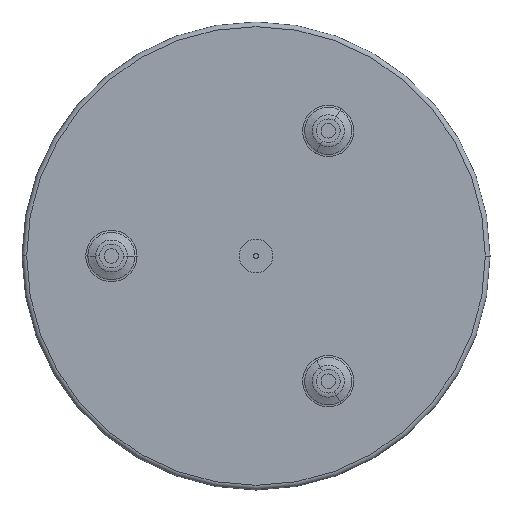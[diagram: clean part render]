
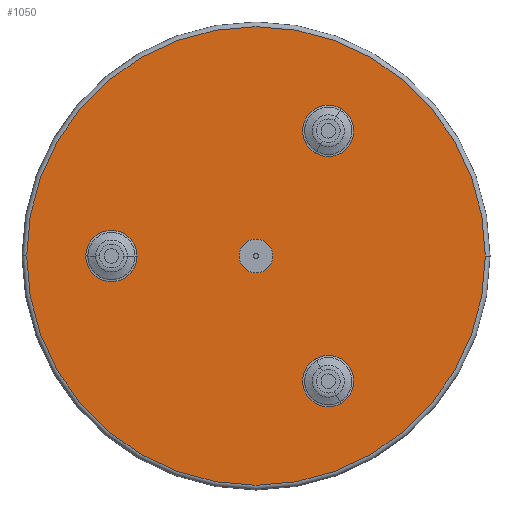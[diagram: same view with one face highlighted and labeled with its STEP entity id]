
A CAD part, front view. The second image highlights one B-rep face of the part: STEP entity #1050.
In plain terms, the highlighted planar face has unit normal (0, -1, 0).
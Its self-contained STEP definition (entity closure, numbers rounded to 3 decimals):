
#24=CARTESIAN_POINT('',(0.,0.,0.));
#25=DIRECTION('',(0.,-1.,0.));
#26=DIRECTION('',(-1.,0.,0.));
#27=AXIS2_PLACEMENT_3D('',#24,#25,#26);
#33=CARTESIAN_POINT('',(0.,0.,0.));
#34=DIRECTION('',(0.,-1.,0.));
#35=DIRECTION('',(1.,0.,0.));
#36=AXIS2_PLACEMENT_3D('',#33,#34,#35);
#41=CARTESIAN_POINT('',(0.,0.,0.));
#42=DIRECTION('',(0.,-1.,0.));
#43=DIRECTION('',(0.,0.,-1.));
#44=AXIS2_PLACEMENT_3D('',#41,#42,#43);
#49=CARTESIAN_POINT('',(0.,0.,0.));
#50=DIRECTION('',(0.,-1.,0.));
#51=DIRECTION('',(0.,0.,1.));
#52=AXIS2_PLACEMENT_3D('',#49,#50,#51);
#57=CARTESIAN_POINT('',(-61.776,0.,0.));
#58=DIRECTION('',(0.,-1.,0.));
#59=DIRECTION('',(1.,0.,0.));
#60=AXIS2_PLACEMENT_3D('',#57,#58,#59);
#65=CARTESIAN_POINT('',(-61.776,0.,0.));
#66=DIRECTION('',(0.,-1.,0.));
#67=DIRECTION('',(-1.,0.,0.));
#68=AXIS2_PLACEMENT_3D('',#65,#66,#67);
#73=CARTESIAN_POINT('',(30.888,0.,53.5));
#74=DIRECTION('',(0.,-1.,0.));
#75=DIRECTION('',(-0.5,0.,-0.866));
#76=AXIS2_PLACEMENT_3D('',#73,#74,#75);
#81=CARTESIAN_POINT('',(30.888,0.,53.5));
#82=DIRECTION('',(0.,-1.,0.));
#83=DIRECTION('',(0.5,0.,0.866));
#84=AXIS2_PLACEMENT_3D('',#81,#82,#83);
#89=CARTESIAN_POINT('',(30.888,0.,-53.5));
#90=DIRECTION('',(0.,-1.,0.));
#91=DIRECTION('',(-0.5,0.,0.866));
#92=AXIS2_PLACEMENT_3D('',#89,#90,#91);
#97=CARTESIAN_POINT('',(30.888,0.,-53.5));
#98=DIRECTION('',(0.,-1.,0.));
#99=DIRECTION('',(0.5,0.,-0.866));
#100=AXIS2_PLACEMENT_3D('',#97,#98,#99);
#887=CARTESIAN_POINT('',(-98.,0.,0.));
#888=CARTESIAN_POINT('',(98.,0.,0.));
#889=VERTEX_POINT('',#887);
#890=VERTEX_POINT('',#888);
#931=CARTESIAN_POINT('',(0.,0.,-7.25));
#932=CARTESIAN_POINT('',(0.,0.,7.25));
#933=VERTEX_POINT('',#931);
#934=VERTEX_POINT('',#932);
#951=CARTESIAN_POINT('',(-50.814,0.,0.));
#952=CARTESIAN_POINT('',(-72.739,0.,0.));
#953=VERTEX_POINT('',#951);
#954=VERTEX_POINT('',#952);
#991=CARTESIAN_POINT('',(25.407,0.,44.006));
#992=CARTESIAN_POINT('',(36.37,0.,62.994));
#993=VERTEX_POINT('',#991);
#994=VERTEX_POINT('',#992);
#1007=CARTESIAN_POINT('',(25.407,0.,-44.006));
#1008=CARTESIAN_POINT('',(36.37,0.,-62.994));
#1009=VERTEX_POINT('',#1007);
#1010=VERTEX_POINT('',#1008);
#1015=CARTESIAN_POINT('',(0.,0.,0.));
#1016=DIRECTION('',(0.,1.,0.));
#1017=DIRECTION('',(1.,0.,0.));
#1018=AXIS2_PLACEMENT_3D('',#1015,#1016,#1017);
#1019=PLANE('',#1018);
#1021=ORIENTED_EDGE('',*,*,#1020,.F.);
#1023=ORIENTED_EDGE('',*,*,#1022,.F.);
#1024=EDGE_LOOP('',(#1021,#1023));
#1025=FACE_OUTER_BOUND('',#1024,.F.);
#1027=ORIENTED_EDGE('',*,*,#1026,.T.);
#1029=ORIENTED_EDGE('',*,*,#1028,.T.);
#1030=EDGE_LOOP('',(#1027,#1029));
#1031=FACE_BOUND('',#1030,.F.);
#1033=ORIENTED_EDGE('',*,*,#1032,.T.);
#1035=ORIENTED_EDGE('',*,*,#1034,.T.);
#1036=EDGE_LOOP('',(#1033,#1035));
#1037=FACE_BOUND('',#1036,.F.);
#1039=ORIENTED_EDGE('',*,*,#1038,.T.);
#1041=ORIENTED_EDGE('',*,*,#1040,.T.);
#1042=EDGE_LOOP('',(#1039,#1041));
#1043=FACE_BOUND('',#1042,.F.);
#1045=ORIENTED_EDGE('',*,*,#1044,.T.);
#1047=ORIENTED_EDGE('',*,*,#1046,.T.);
#1048=EDGE_LOOP('',(#1045,#1047));
#1049=FACE_BOUND('',#1048,.F.);
#1050=ADVANCED_FACE('',(#1025,#1031,#1037,#1043,#1049),#1019,.F.);
#28=CIRCLE('',#27,98.);
#37=CIRCLE('',#36,98.);
#45=CIRCLE('',#44,7.25);
#53=CIRCLE('',#52,7.25);
#61=CIRCLE('',#60,10.963);
#69=CIRCLE('',#68,10.963);
#77=CIRCLE('',#76,10.963);
#85=CIRCLE('',#84,10.963);
#93=CIRCLE('',#92,10.963);
#101=CIRCLE('',#100,10.963);
#1020=EDGE_CURVE('',#889,#890,#28,.T.);
#1022=EDGE_CURVE('',#890,#889,#37,.T.);
#1026=EDGE_CURVE('',#933,#934,#45,.T.);
#1028=EDGE_CURVE('',#934,#933,#53,.T.);
#1032=EDGE_CURVE('',#953,#954,#61,.T.);
#1034=EDGE_CURVE('',#954,#953,#69,.T.);
#1038=EDGE_CURVE('',#993,#994,#77,.T.);
#1040=EDGE_CURVE('',#994,#993,#85,.T.);
#1044=EDGE_CURVE('',#1009,#1010,#93,.T.);
#1046=EDGE_CURVE('',#1010,#1009,#101,.T.);
